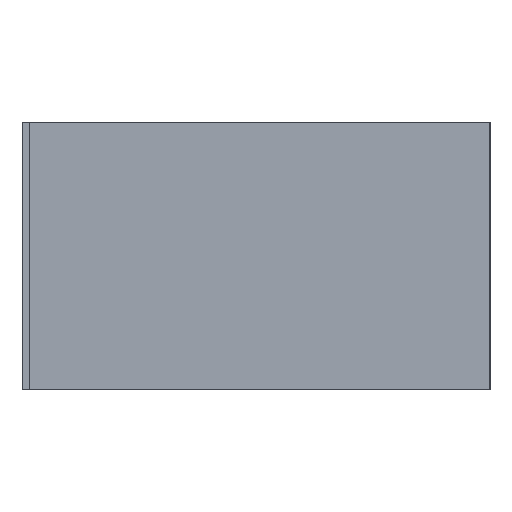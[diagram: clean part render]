
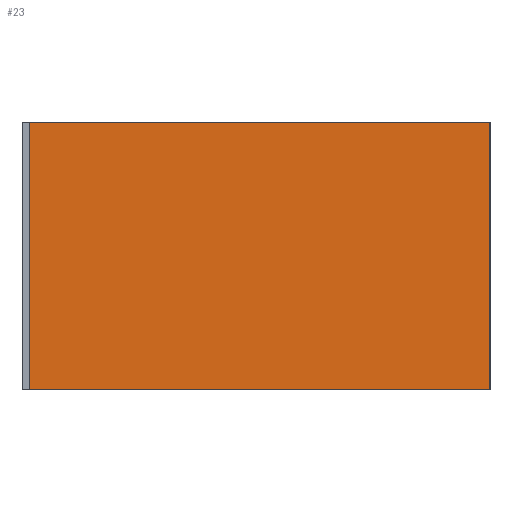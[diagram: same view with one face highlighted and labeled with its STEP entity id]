
A CAD part, left-side view. The second image highlights one B-rep face of the part: STEP entity #23.
In plain terms, the highlighted planar face has unit normal (-1, 0, 0).
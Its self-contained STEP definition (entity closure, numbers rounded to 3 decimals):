
#14 = LINE ( 'NONE', #146, #256 ) ;
#20 = EDGE_CURVE ( 'NONE', #83, #144, #180, .T. ) ;
#23 = ADVANCED_FACE ( 'NONE', ( #298 ), #124, .T. ) ;
#25 = CARTESIAN_POINT ( 'NONE',  ( -256.8, 11.5, 0. ) ) ;
#54 = CARTESIAN_POINT ( 'NONE',  ( -256.8, -5.699, 0. ) ) ;
#57 = ORIENTED_EDGE ( 'NONE', *, *, #246, .F. ) ;
#83 = VERTEX_POINT ( 'NONE', #151 ) ;
#86 = VECTOR ( 'NONE', #137, 1000. ) ;
#90 = EDGE_CURVE ( 'NONE', #317, #83, #14, .T. ) ;
#101 = VECTOR ( 'NONE', #238, 1000. ) ;
#106 = LINE ( 'NONE', #225, #86 ) ;
#124 = PLANE ( 'NONE',  #216 ) ;
#137 = DIRECTION ( 'NONE',  ( 0., 0., -1. ) ) ;
#140 = ORIENTED_EDGE ( 'NONE', *, *, #20, .T. ) ;
#144 = VERTEX_POINT ( 'NONE', #25 ) ;
#146 = CARTESIAN_POINT ( 'NONE',  ( -256.8, 0., 10. ) ) ;
#151 = CARTESIAN_POINT ( 'NONE',  ( -256.8, 11.5, 10. ) ) ;
#166 = VECTOR ( 'NONE', #267, 1000. ) ;
#176 = LINE ( 'NONE', #330, #166 ) ;
#180 = LINE ( 'NONE', #184, #101 ) ;
#184 = CARTESIAN_POINT ( 'NONE',  ( -256.8, 11.5, 10. ) ) ;
#201 = VERTEX_POINT ( 'NONE', #54 ) ;
#207 = DIRECTION ( 'NONE',  ( -1., 0., 0. ) ) ;
#216 = AXIS2_PLACEMENT_3D ( 'NONE', #269, #207, #322 ) ;
#225 = CARTESIAN_POINT ( 'NONE',  ( -256.8, -5.699, 10. ) ) ;
#226 = ORIENTED_EDGE ( 'NONE', *, *, #336, .F. ) ;
#234 = DIRECTION ( 'NONE',  ( 0., 1., 0. ) ) ;
#238 = DIRECTION ( 'NONE',  ( 0., 0., -1. ) ) ;
#246 = EDGE_CURVE ( 'NONE', #317, #201, #106, .T. ) ;
#256 = VECTOR ( 'NONE', #234, 1000. ) ;
#267 = DIRECTION ( 'NONE',  ( 0., 1., 0. ) ) ;
#269 = CARTESIAN_POINT ( 'NONE',  ( -256.8, 0., 10. ) ) ;
#278 = EDGE_LOOP ( 'NONE', ( #226, #57, #286, #140 ) ) ;
#286 = ORIENTED_EDGE ( 'NONE', *, *, #90, .T. ) ;
#298 = FACE_OUTER_BOUND ( 'NONE', #278, .T. ) ;
#299 = CARTESIAN_POINT ( 'NONE',  ( -256.8, -5.699, 10. ) ) ;
#317 = VERTEX_POINT ( 'NONE', #299 ) ;
#322 = DIRECTION ( 'NONE',  ( 0., 0., 1. ) ) ;
#330 = CARTESIAN_POINT ( 'NONE',  ( -256.8, 0., 0. ) ) ;
#336 = EDGE_CURVE ( 'NONE', #201, #144, #176, .T. ) ;
